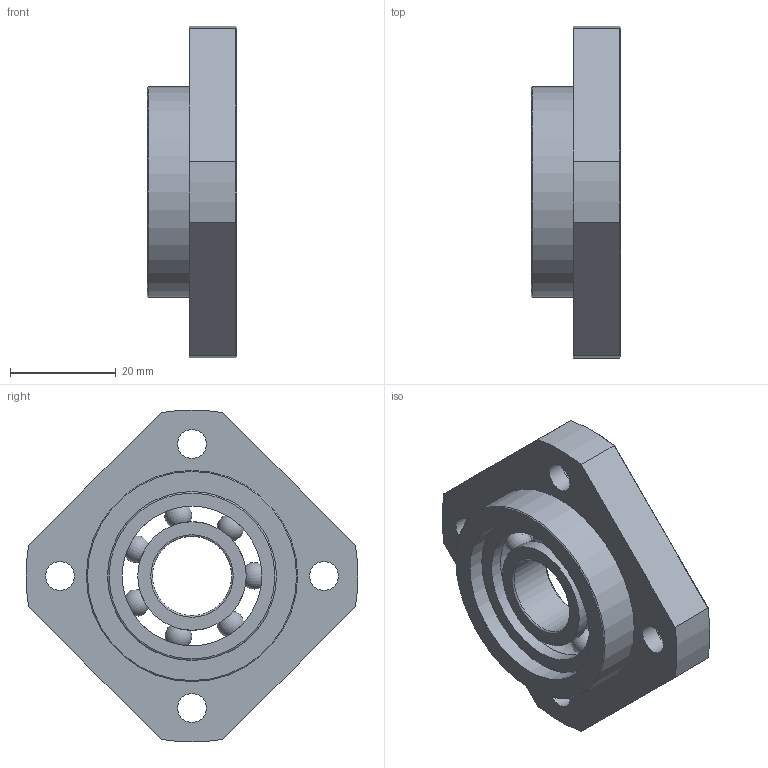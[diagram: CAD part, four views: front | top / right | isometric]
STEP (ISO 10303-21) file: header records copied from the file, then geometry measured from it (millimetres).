
FILE_DESCRIPTION(/* description */ (''),/* implementation_level */ '2;1');
FILE_NAME(/* name */ 'C:\Users\Nick_2\Dropbox\WG Projekte\Kamp und Kötter\Artikel\Lagerset Flanschlager (FK-FF)\02_STEP-Dateien\FF15-Flanschloslager-20160127.stp',/* time_stamp */ '2016-01-27T18:05:24+01:00',/* author */ ('Nick_2'),/* organization */ (''),/* preprocessor_version */ 'ST-DEVELOPER v15.6',/* originating_system */ 'Autodesk Inventor 2015',/* authorisation */ '');
FILE_SCHEMA (('AUTOMOTIVE_DESIGN { 1 0 10303 214 3 1 1 }'));
Length unit declared in the file: millimetre
Products named in the file (3): FF15_Flanschloslager; DIN 625 T1 - 6002 - 15 x 32 x 9; FF15-Flanschloslager-20150713
Assembly tree (2 placements, depth 2):
  FF15-Flanschloslager-20150713
    FF15_Flanschloslager
    DIN 625 T1 - 6002 - 15 x 32 x 9
Bounding box: 17 x 62.88 x 62.88 mm (x, y, z)
Volume: 21454.7 mm3; surface area: 12748.2 mm2
Topology: 10 solids, 10 shells, 73 faces, 166 edges, 104 vertices
Faces by surface type: cylinder 20, plane 19, torus 18, cone 9, sphere 7
Full cylindrical faces by diameter (mm): 5.5 x4, 9.5 x4, 15 x1, 20.542 x2, 26.458 x2, 32 x2, 40 x1
Entity records: 1908 total; most frequent: DIRECTION 358, CARTESIAN_POINT 310, ORIENTED_EDGE 266, AXIS2_PLACEMENT_3D 169, EDGE_LOOP 124, EDGE_CURVE 119, CIRCLE 91, VERTEX_POINT 89
